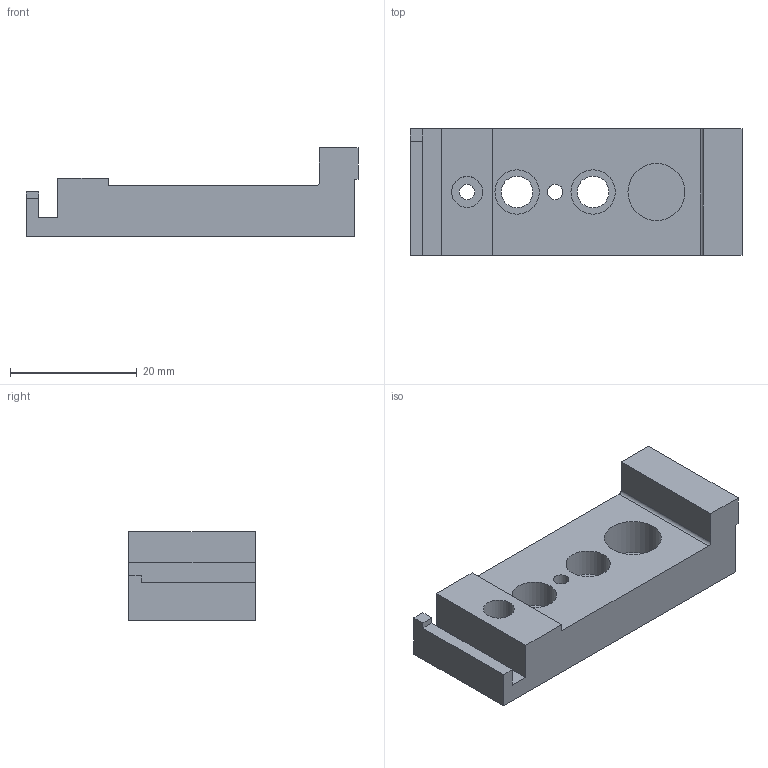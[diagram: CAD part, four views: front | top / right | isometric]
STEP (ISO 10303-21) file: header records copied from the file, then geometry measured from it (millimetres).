
FILE_DESCRIPTION(('STEP AP203'), '1');
FILE_NAME('櫻蠉錪', '', ('UNSPECIFIED'), ('UNSPECIFIED'), 'C3D Converter', 'C3D Toolkit', '');
FILE_SCHEMA(('CONFIG_CONTROL_DESIGN'));
Length unit declared in the file: millimetre
Bounding box: 52.4 x 20 x 14 mm (x, y, z)
Volume: 7750.3 mm3; surface area: 4290.7 mm2
Topology: 1 solids, 1 shells, 33 faces, 93 edges, 70 vertices
Faces by surface type: plane 23, cylinder 10
Full cylindrical faces by diameter (mm): 2.459 x2, 4.917 x1, 5 x2, 5.5 x1, 7 x2, 9 x1
Entity records: 2347 total; most frequent: CARTESIAN_POINT 1410, DIRECTION 181, ORIENTED_EDGE 138, EDGE_CURVE 69, AXIS2_PLACEMENT_3D 66, EDGE_LOOP 55, VERTEX_POINT 52, LINE 49
